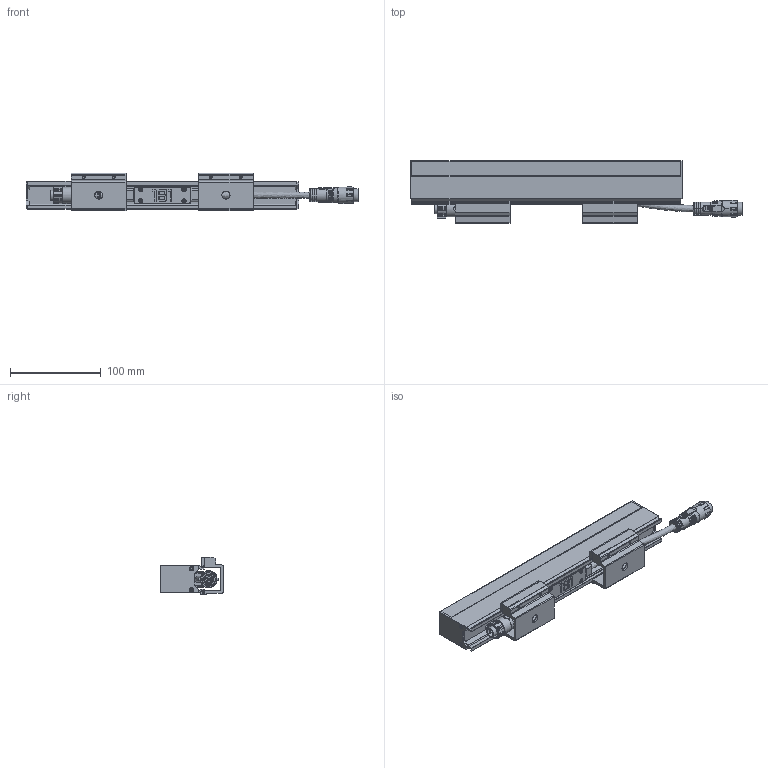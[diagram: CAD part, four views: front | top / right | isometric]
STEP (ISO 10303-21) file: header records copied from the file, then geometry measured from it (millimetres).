
FILE_DESCRIPTION (( 'STEP AP214' ), '1' );
FILE_NAME ('E series 2 Square L300.STEP', '2025-11-24T13:36:15', ( '' ), ( '' ), 'SwSTEP 2.0', 'SolidWorks 2025', '' );
FILE_SCHEMA (( 'AUTOMOTIVE_DESIGN' ));
Length unit declared in the file: millimetre
Products named in the file (10): E series 2 mounting clip bottom; M16 5p Female; M16 5p Male; E series 2 with dome cover body and bare config_Bare 300mm; Part53^E series 2; Counter sunk screw torx_M3x16; E series 2 mounting clip top; E series 2 Square L300; E series 2 with square cover body_300mm; Counter sunk screw torx_M2.5x16
Assembly tree (25 placements, depth 2):
  E series 2 Square L300
    E series 2 with dome cover body and bare config_Bare 300mm
    Counter sunk screw torx_M2.5x16  x12
    E series 2 mounting clip bottom  x2
    E series 2 mounting clip top  x2
    Counter sunk screw torx_M3x16  x4
    E series 2 with square cover body_300mm
    M16 5p Female
    M16 5p Male
    Part53^E series 2
Bounding box: 365.35 x 68.7 x 41.7 mm (x, y, z)
Volume: 418807.9 mm3; surface area: 111386.5 mm2
Topology: 27 solids, 29 shells, 1607 faces, 4016 edges, 2535 vertices
Faces by surface type: cylinder 679, plane 553, torus 125, bspline 116, cone 108, sphere 26
Full cylindrical faces by diameter (mm): 2.4 x2, 2.5 x12, 3 x4, 4.5 x12, 5.81 x4, 9.2 x1, 11.1 x1, 14.25 x1, 14.3 x1, 18 x1
Entity records: 56133 total; most frequent: CARTESIAN_POINT 18636, ORIENTED_EDGE 6186, DIRECTION 5761, EDGE_CURVE 3093, AXIS2_PLACEMENT_3D 2242, VERTEX_POINT 1961, EDGE_LOOP 1392, VECTOR 1277
